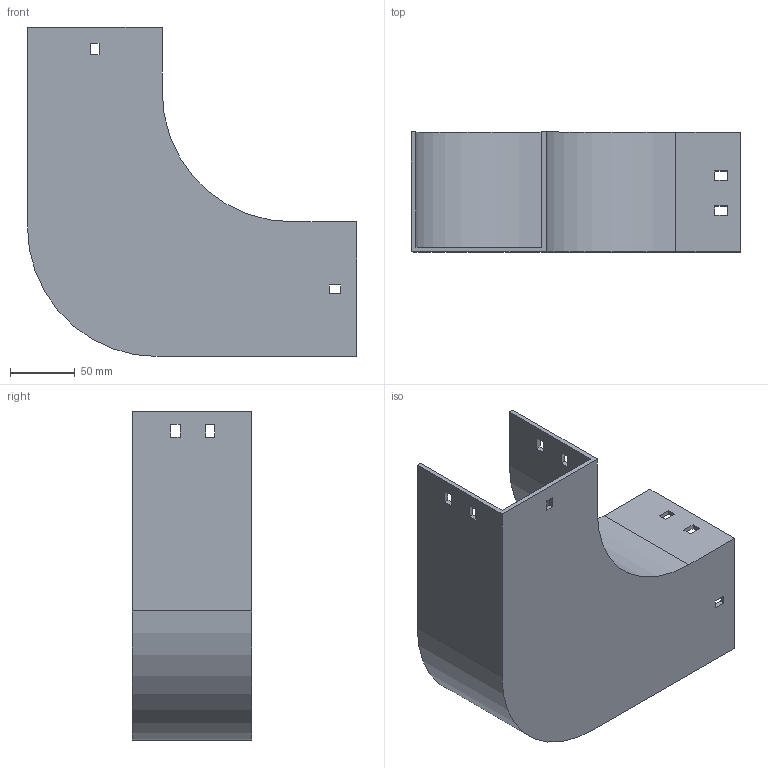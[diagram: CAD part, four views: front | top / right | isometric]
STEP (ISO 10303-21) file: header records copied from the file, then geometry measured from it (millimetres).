
FILE_DESCRIPTION (( 'STEP AP214' ), '1' );
FILE_NAME ('10B1I100.step', '2025-02-21T09:41:58', ( '' ), ( '' ), 'SwSTEP 2.0', 'SolidWorks 2023', '' );
FILE_SCHEMA (( 'AUTOMOTIVE_DESIGN' ));
Length unit declared in the file: millimetre
Products named in the file (1): 10B1I100
Bounding box: 254 x 92.5 x 254 mm (x, y, z)
Volume: 369639.1 mm3; surface area: 216892.9 mm2
Topology: 1 solids, 1 shells, 58 faces, 168 edges, 112 vertices
Faces by surface type: plane 54, cylinder 4
Entity records: 1943 total; most frequent: CARTESIAN_POINT 339, ORIENTED_EDGE 336, DIRECTION 294, EDGE_CURVE 168, LINE 160, VECTOR 160, VERTEX_POINT 112, EDGE_LOOP 78
